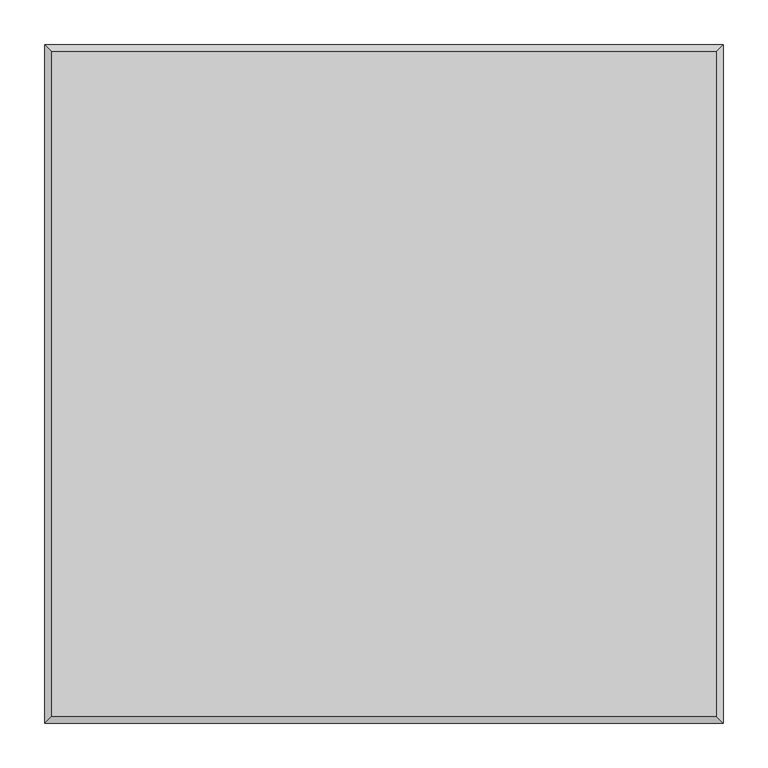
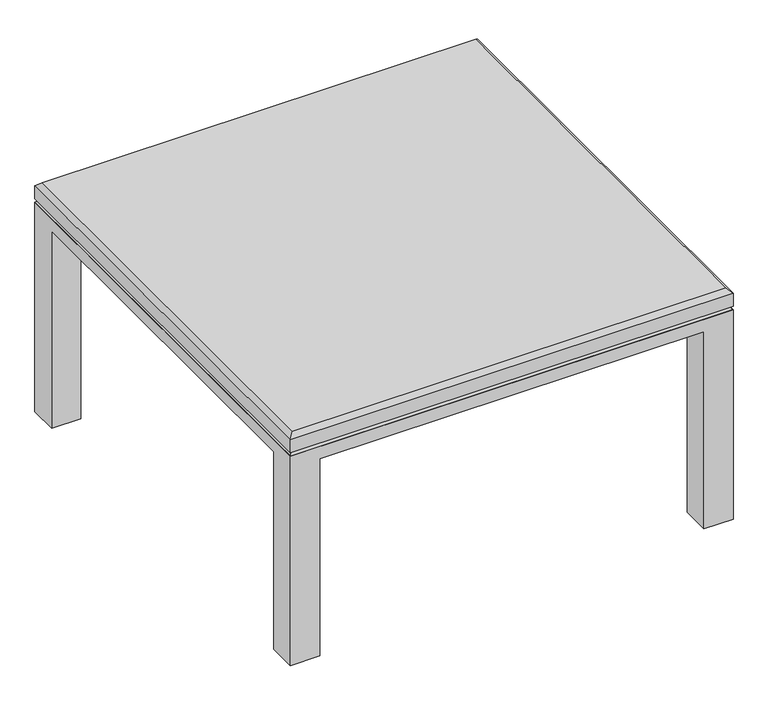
"""IFC4 building model written with IfcOpenShell, lengths in millimetres: furniture geometry, Steelcase Coalesse - Swathmore Plus - Beveled : 30D x 30W x 16 1/2H - Glass Top."""

from ifc_helpers import new_model, si_unit, origin, place, context, project, spatial, faceted_brep, source, transform, mapped, element, save


def furniture_ce336b14(model_context):
    return source(origin(), model_context, "Body", "Brep", [
        faceted_brep([(762.0, 0.0, 381.0), (0.0, 0.0, 381.0), (0.0, -762.0, 381.0), (762.0, -762.0, 381.0), (762.0, -50.1297163, 358.7750121), (762.0, -712.1013016, 358.7750121), (711.8734085, -712.1013016, 358.7750121), (711.8734085, -711.8702837, 358.7750121), (755.6498062, -711.8702837, 358.7750121), (755.6498062, -50.1297163, 358.7750121), (711.8734085, -762.0, 358.7750121), (50.1812393, -762.0, 358.7750121), (50.1812393, -712.1013016, 358.7750121), (0.0, -712.1013016, 358.7750121), (0.0, -50.1297163, 358.7750121), (6.3501938, -50.1297163, 358.7750121), (6.3501938, -711.8702837, 358.7750121), (50.8001938, -711.8702837, 358.7750121), (50.8001938, -755.6496318, 358.7750121), (711.8734085, -755.6496318, 358.7750121), (50.1812393, 0.0, 358.7750121), (711.8734085, 0.0, 358.7750121), (711.8734085, -6.3503682, 358.7750121), (50.8001938, -6.3503682, 358.7750121), (50.8001938, -50.1297163, 358.7750121), (50.1812393, -50.1297163, 358.7750121), (762.0, 0.0, 0.0), (711.8734085, 0.0, 0.0), (50.1812393, 0.0, 0.0), (0.0, 0.0, 0.0), (0.0, -50.1297163, 0.0), (0.0, -712.1013016, 0.0), (0.0, -762.0, 0.0), (50.1812393, -762.0, 0.0), (711.8734085, -762.0, 0.0), (762.0, -762.0, 0.0), (762.0, -712.1013016, 0.0), (762.0, -50.1297163, 0.0), (50.1812393, -50.1297163, 0.0), (50.1812393, -712.1013016, 0.0), (711.8734085, -50.1297163, 0.0), (711.8734085, -712.1013016, 0.0), (50.1812393, -712.1013016, 336.5499879), (711.8734085, -50.1297163, 336.5499879), (711.8734085, -28.575, 336.5499879), (733.425, -50.1297163, 336.5499879), (711.8734085, -712.1013016, 336.5499879), (711.8734085, -733.425, 336.5499879), (50.7998062, -50.8000242, 336.5499879), (50.7998062, -28.575, 336.5499879), (733.425, -712.1013016, 336.5499879), (50.1812393, -733.425, 336.5499879), (50.1812393, -712.1013016, 336.5499879), (28.5708422, -712.1013016, 336.5499879), (28.5708422, -50.8000242, 336.5499879)], [[[0, 1, 2, 3]], [[4, 5, 6, 7, 8, 9]], [[10, 11, 12, 13, 14, 15, 16, 17, 18, 19]], [[20, 21, 22, 23, 24, 25]], [[1, 0, 26, 27, 21, 20, 28, 29]], [[2, 1, 29, 30, 14, 13, 31, 32]], [[3, 2, 32, 33, 11, 10, 34, 35]], [[0, 3, 35, 36, 5, 4, 37, 26]], [[28, 38, 30, 29]], [[33, 32, 31, 39]], [[26, 37, 40, 27]], [[36, 35, 34, 41]], [[30, 38, 25, 15, 14]], [[38, 28, 20, 25]], [[33, 39, 42, 12, 11]], [[39, 31, 13, 12, 42]], [[27, 40, 43, 44, 22, 21]], [[40, 37, 4, 9, 45, 43]], [[36, 41, 46, 6, 5]], [[41, 34, 10, 19, 47, 46]], [[48, 49, 44, 43, 45, 50, 46, 47, 51, 52, 53, 54]], [[48, 54, 15, 25, 24]], [[54, 53, 16, 15]], [[53, 52, 17, 16]], [[52, 51, 18, 17]], [[51, 47, 19, 18]], [[46, 7, 6]], [[46, 50, 8, 7]], [[50, 45, 9, 8]], [[44, 49, 23, 22]], [[49, 48, 24, 23]]]),
        faceted_brep([(762.0, -762.0, 411.1625121), (762.0, -762.0, 387.3500121), (762.0, 0.0, 387.3500121), (762.0, 0.0, 411.1625121), (0.0, 0.0, 411.1625121), (0.0, 0.0, 387.3500121), (0.0, -762.0, 387.3500121), (0.0, -762.0, 411.1625121), (754.0626938, -7.9375242, 419.1), (7.9373062, -7.9375242, 419.1), (7.9373062, -754.0625484, 419.1), (754.0626938, -754.0625484, 419.1)], [[[0, 1, 2, 3]], [[4, 5, 6, 7]], [[1, 0, 7, 6]], [[2, 1, 6, 5]], [[3, 2, 5, 4]], [[8, 9, 10, 11]], [[8, 11, 0, 3]], [[11, 10, 7, 0]], [[10, 9, 4, 7]], [[9, 8, 3, 4]]]),
        faceted_brep([(762.0, 0.0, 381.0), (762.0, -762.0, 381.0), (0.0, -762.0, 381.0), (0.0, 0.0, 381.0), (755.6498062, -6.3499758, 387.3500121), (6.3501938, -6.3499758, 387.3500121), (6.3501938, -755.6496318, 387.3500121), (755.6498062, -755.6496318, 387.3500121)], [[[0, 1, 2, 3]], [[4, 5, 6, 7]], [[4, 7, 1, 0]], [[7, 6, 2, 1]], [[6, 5, 3, 2]], [[5, 4, 0, 3]]]),
    ])


if __name__ == "__main__":
    model = new_model("IFC4")
    model_context = context("Model", 3, world=origin())
    ifc_project = project(units=[si_unit("LENGTHUNIT", "METRE", prefix="MILLI")], contexts=[model_context])
    site = spatial("IfcSite", under=ifc_project)
    building = spatial("IfcBuilding", under=site)
    placement = place(None, origin())
    furniture_shape = furniture_ce336b14(model_context)
    element("IfcFurniture", 1, ObjectType="Steelcase Coalesse - Swathmore Plus - Beveled : 30D x 30W x 16 1/2H - Glass Top", at=placement, inside=building, context=model_context, shape_type="MappedRepresentation", body=[
        mapped(furniture_shape, transform((0.0, 0.0, 0.0), x_axis=(1.0, 0.0, 0.0), y_axis=(0.0, 1.0, 0.0), z_axis=(0.0, 0.0, 1.0))),
    ])
    save(model, "model.ifc")
